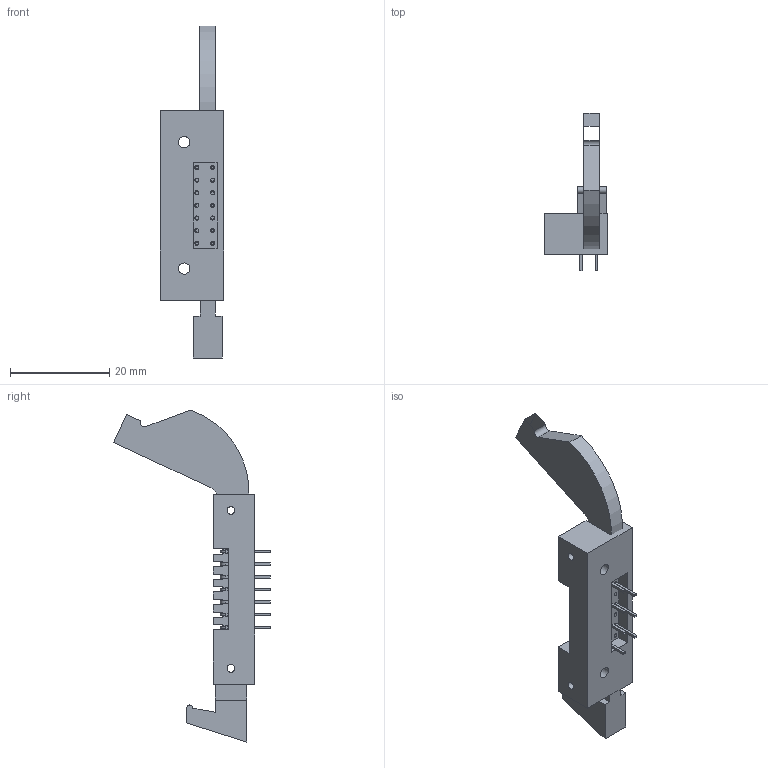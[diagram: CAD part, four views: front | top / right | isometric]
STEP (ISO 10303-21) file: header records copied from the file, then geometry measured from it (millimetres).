
FILE_DESCRIPTION (( 'STEP AP214' ), '1' );
FILE_NAME ('CONNECTOR, AZIMUTH 5A STANDARD, OPEN.STEP', '2014-07-18T16:24:20', ( '' ), ( '' ), 'SwSTEP 2.0', 'SolidWorks 2014', '' );
FILE_SCHEMA (( 'AUTOMOTIVE_DESIGN' ));
Length unit declared in the file: inch
Products named in the file (1): CONNECTOR, AZIMUTH 5A STANDARD, OPEN
Bounding box: 12.7 x 31.55 x 66.74 mm (x, y, z)
Surface area: 4345.6 mm2 (no closed solid volume)
Topology: 0 solids, 12 shells, 249 faces, 961 edges, 685 vertices
Faces by surface type: plane 204, cylinder 45
Full cylindrical faces by diameter (mm): 0.813 x11, 1.575 x4, 2.261 x2, 4.115 x2
Entity records: 13006 total; most frequent: CARTESIAN_POINT 1849, DIRECTION 1583, ORIENTED_EDGE 1476, EDGE_CURVE 928, LINE 773, VECTOR 773, VERTEX_POINT 671, AXIS2_PLACEMENT_3D 405
